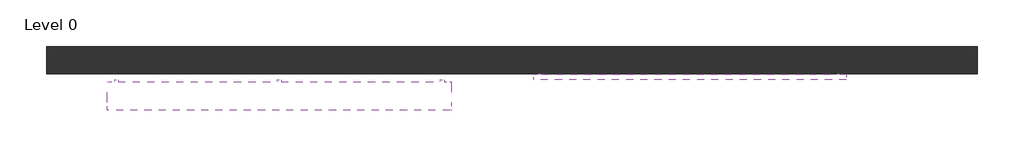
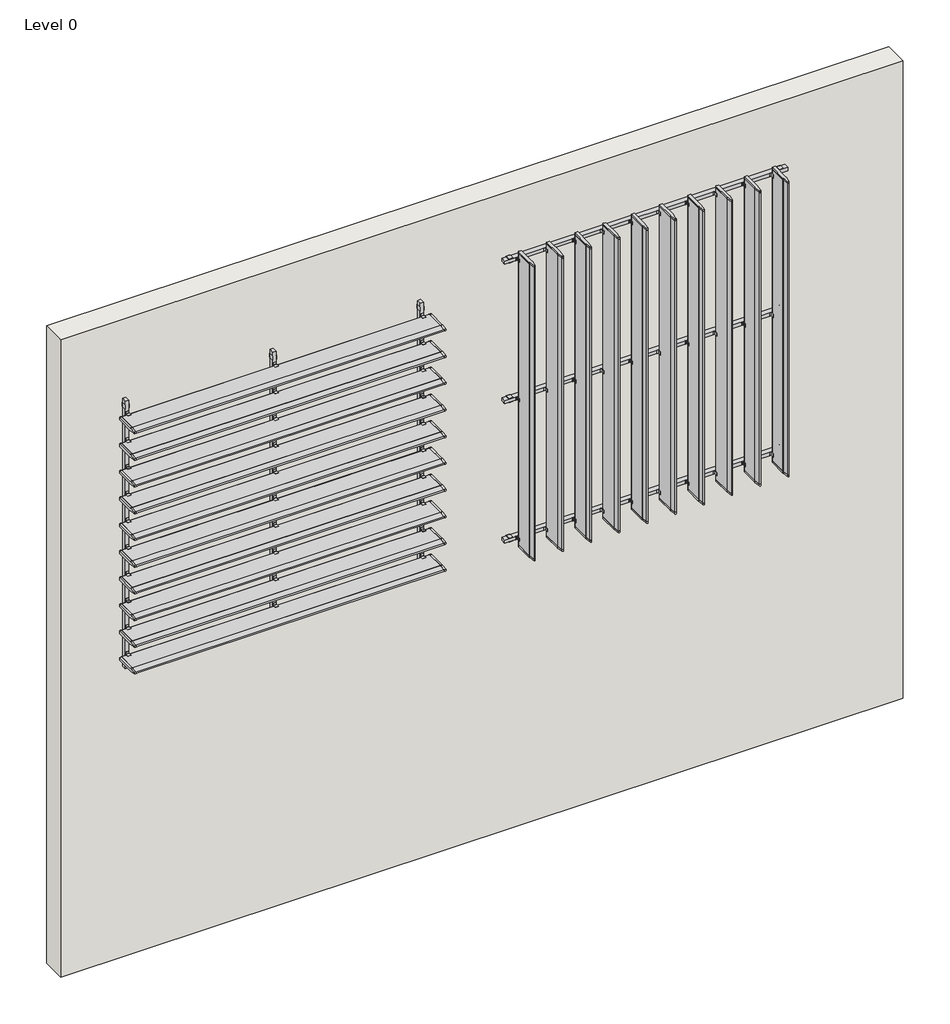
# One storey: 2 geographic elements, 1 wall.
"""IFC4 building model written with IfcOpenShell, lengths in millimetres."""

from ifc_helpers import new_model, si_unit, origin, origin_with_axes, place, context, project, spatial, polyline, outline, extrude, transform, mapped, element, save
from components import louver_system_e50a767e, louver_system_3ba4f6a6, louver_system_eb25eb16, louver_system_b39b6830

model = new_model("IFC4")

# Units and contexts
model_context = context("Model", 3, world=origin())
ifc_project = project(units=[si_unit("LENGTHUNIT", "METRE", prefix="MILLI")], contexts=[model_context])

# Site, building, storey
site = spatial("IfcSite", under=ifc_project)
building = spatial("IfcBuilding", under=site)
storey = spatial("IfcBuildingStorey", under=building, Name="Level 0", Elevation=0.0)

# Geographic elements
placement = place(None, origin())
louver_system_shape = louver_system_e50a767e(model_context)
louver_system_2_shape = louver_system_3ba4f6a6(model_context)
element("IfcGeographicElement", 1, ObjectType="Site_Danpal_AURA-Louvers : Louver System", at=placement, inside=storey, context=model_context, shape_type="MappedRepresentation", body=[
    mapped(louver_system_shape, transform((-4211.657077, 5027.7311629, 4700.0), x_axis=(1.0, 0.0, 0.0), y_axis=(0.0, 0.0, 1.0), z_axis=(0.0, -1.0, 0.0))),
    mapped(louver_system_2_shape, transform((-4211.657077, 5027.7311629, 4700.0), x_axis=(1.0, 0.0, 0.0), y_axis=(0.0, 0.0, 1.0), z_axis=(0.0, -1.0, 0.0))),
])
louver_system_3_shape = louver_system_eb25eb16(model_context)
louver_system_4_shape = louver_system_b39b6830(model_context)
element("IfcGeographicElement", 2, ObjectType="Site_Danpal_AURA-Louvers : Louver System", at=placement, inside=storey, context=model_context, shape_type="MappedRepresentation", body=[
    mapped(louver_system_3_shape, transform((-8611.657077, 5027.7311629, 4700.0), x_axis=(1.0, 0.0, 0.0), y_axis=(0.0, 0.0, 1.0), z_axis=(0.0, -1.0, 0.0))),
    mapped(louver_system_4_shape, transform((-8611.657077, 5027.7311629, 4700.0), x_axis=(1.0, 0.0, 0.0), y_axis=(0.0, 0.0, 1.0), z_axis=(0.0, -1.0, 0.0))),
])

# Wall
element("IfcWall", 3, ObjectType="Wall-Ext_102Bwk-75Ins-100LBlk-12P", at=placement, inside=storey, context=model_context, shape_type="SweptSolid", body=[
    extrude(outline(polyline([(-1111.657077, 5027.7311629), (-11111.657077, 5027.7311629), (-11111.657077, 5317.7311629), (-1111.657077, 5317.7311629), (-1111.657077, 5027.7311629)])), origin_with_axes(), (0.0, 0.0, 1.0), 8000.0),
])

save(model, "model.ifc")
